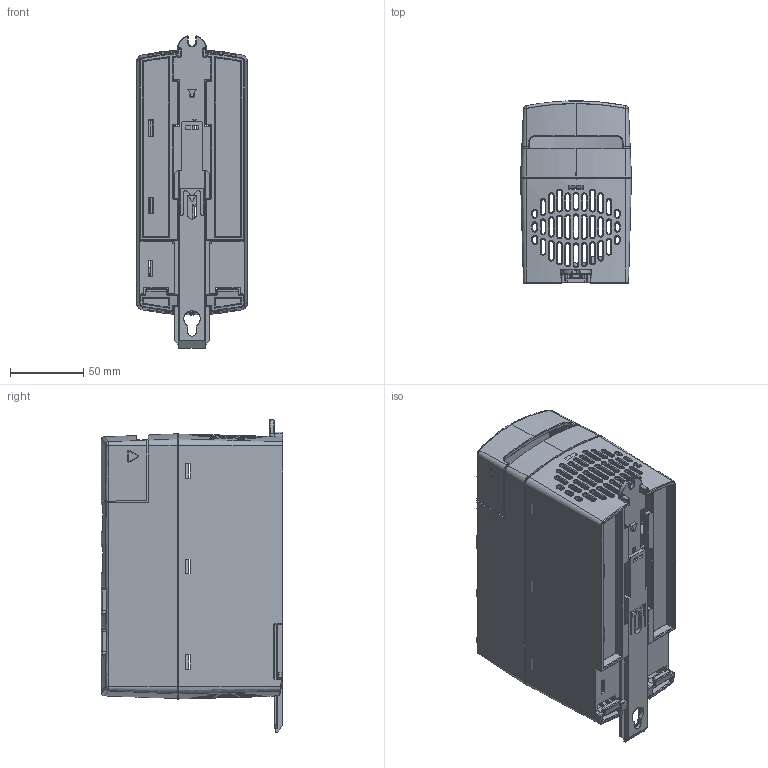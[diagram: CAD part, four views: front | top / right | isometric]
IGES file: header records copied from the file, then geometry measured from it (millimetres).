
Start section: SolidWorks IGES file using analytic representation for surfaces
Global section: file name: F:\ELMO\PRODUCTS\Cornet\DRAWING\solid-parts\cornet.IGS; native system: SolidWorks 2006 by SolidWorks Corporation; preprocessor: SolidWorks 2006 by SolidWorks Corporation; author: shlomo; date: 060703.121046; units: millimetre
Bounding box: 75.54 x 123.88 x 212.61 mm (x, y, z)
Surface area: 190924.2 mm2 (no closed solid volume)
Topology: 0 solids, 0 shells, 2020 faces, 15777 edges, 15763 vertices
Faces by surface type: bspline 1360, revolution 660
